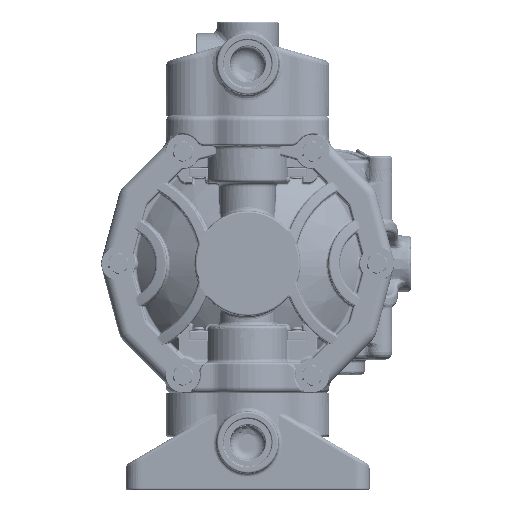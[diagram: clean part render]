
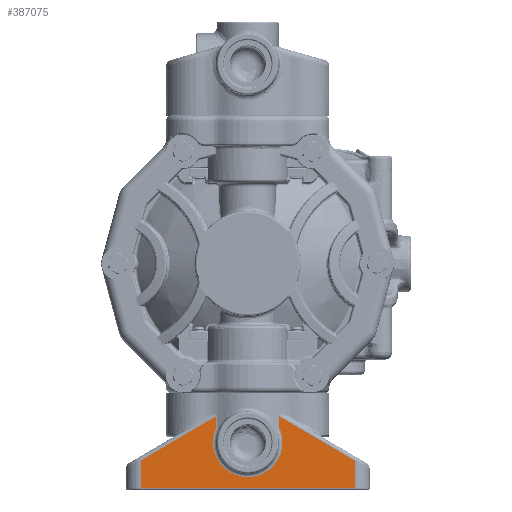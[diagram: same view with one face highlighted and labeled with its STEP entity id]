
A CAD part, top view. The second image highlights one B-rep face of the part: STEP entity #387075.
In plain terms, the highlighted planar face has unit normal (0, 0, 1).
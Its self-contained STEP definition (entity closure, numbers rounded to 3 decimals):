
#4421 = CARTESIAN_POINT ( 'NONE',  ( 57.001, -105.119, 104.656 ) ) ;
#9467 = VERTEX_POINT ( 'NONE', #373981 ) ;
#24901 = EDGE_CURVE ( 'NONE', #220158, #9467, #119329, .T. ) ;
#31273 = VECTOR ( 'NONE', #421659, 1000. ) ;
#43518 = VERTEX_POINT ( 'NONE', #319268 ) ;
#49198 = CARTESIAN_POINT ( 'NONE',  ( -16.499, -115.5, 104.656 ) ) ;
#64103 = VERTEX_POINT ( 'NONE', #380675 ) ;
#71077 = CIRCLE ( 'NONE', #326365, 18.5 ) ;
#78902 = ORIENTED_EDGE ( 'NONE', *, *, #280539, .T. ) ;
#79575 = VECTOR ( 'NONE', #159988, 1000. ) ;
#86680 = ORIENTED_EDGE ( 'NONE', *, *, #155892, .T. ) ;
#88591 = CARTESIAN_POINT ( 'NONE',  ( 0.001, -95.5, 104.656 ) ) ;
#94102 = AXIS2_PLACEMENT_3D ( 'NONE', #116966, #359584, #151879 ) ;
#95052 = EDGE_CURVE ( 'NONE', #425982, #43518, #322094, .T. ) ;
#99901 = CARTESIAN_POINT ( 'NONE',  ( 18.501, -95.5, 104.656 ) ) ;
#101698 = CARTESIAN_POINT ( 'NONE',  ( 57.001, -120., 104.656 ) ) ;
#106298 = EDGE_CURVE ( 'NONE', #330234, #404605, #252815, .T. ) ;
#112259 = VECTOR ( 'NONE', #190217, 1000. ) ;
#112508 = VECTOR ( 'NONE', #439025, 1000. ) ;
#116966 = CARTESIAN_POINT ( 'NONE',  ( 0.001, -95.5, 104.656 ) ) ;
#117716 = CARTESIAN_POINT ( 'NONE',  ( -56.999, -120., 104.656 ) ) ;
#119329 = LINE ( 'NONE', #101698, #282038 ) ;
#123543 = DIRECTION ( 'NONE',  ( 1., 0., 0. ) ) ;
#136644 = DIRECTION ( 'NONE',  ( 1., 0., 0. ) ) ;
#145905 = CARTESIAN_POINT ( 'NONE',  ( 57.001, -115.5, 104.656 ) ) ;
#148912 = ORIENTED_EDGE ( 'NONE', *, *, #24901, .T. ) ;
#151879 = DIRECTION ( 'NONE',  ( 1., 0., 0. ) ) ;
#152526 = ORIENTED_EDGE ( 'NONE', *, *, #427793, .T. ) ;
#154935 = ORIENTED_EDGE ( 'NONE', *, *, #166100, .T. ) ;
#155377 = CARTESIAN_POINT ( 'NONE',  ( 15.488, -80.724, 104.656 ) ) ;
#155892 = EDGE_CURVE ( 'NONE', #370818, #64103, #356349, .T. ) ;
#159988 = DIRECTION ( 'NONE',  ( 0., 1., 0. ) ) ;
#166100 = EDGE_CURVE ( 'NONE', #43518, #370818, #278143, .T. ) ;
#183077 = LINE ( 'NONE', #196619, #112508 ) ;
#189696 = DIRECTION ( 'NONE',  ( 0., 0., -1. ) ) ;
#190217 = DIRECTION ( 'NONE',  ( -0.862, 0.507, 0. ) ) ;
#190324 = EDGE_CURVE ( 'NONE', #9467, #241601, #442758, .T. ) ;
#196619 = CARTESIAN_POINT ( 'NONE',  ( -31.429, -90.093, 104.656 ) ) ;
#215619 = LINE ( 'NONE', #386877, #31273 ) ;
#220158 = VERTEX_POINT ( 'NONE', #117716 ) ;
#223575 = DIRECTION ( 'NONE',  ( 1., 0., 0. ) ) ;
#228742 = ORIENTED_EDGE ( 'NONE', *, *, #106298, .T. ) ;
#236657 = EDGE_LOOP ( 'NONE', ( #78902, #148912, #388649, #152526, #228742, #317399, #432219, #154935, #86680, #258996 ) ) ;
#240530 = FACE_OUTER_BOUND ( 'NONE', #236657, .T. ) ;
#241601 = VERTEX_POINT ( 'NONE', #4421 ) ;
#252341 = AXIS2_PLACEMENT_3D ( 'NONE', #88591, #331272, #123543 ) ;
#252815 = LINE ( 'NONE', #279772, #334085 ) ;
#258996 = ORIENTED_EDGE ( 'NONE', *, *, #359136, .T. ) ;
#278143 = CIRCLE ( 'NONE', #252341, 18.5 ) ;
#279772 = CARTESIAN_POINT ( 'NONE',  ( 16.869, -115.5, 104.656 ) ) ;
#280539 = EDGE_CURVE ( 'NONE', #341529, #220158, #215619, .T. ) ;
#282038 = VECTOR ( 'NONE', #136644, 1000. ) ;
#288942 = CARTESIAN_POINT ( 'NONE',  ( -16.867, -87.902, 104.656 ) ) ;
#297978 = CARTESIAN_POINT ( 'NONE',  ( -16.867, -115.5, 104.656 ) ) ;
#314903 = CARTESIAN_POINT ( 'NONE',  ( 16.869, -81.536, 104.656 ) ) ;
#317399 = ORIENTED_EDGE ( 'NONE', *, *, #337619, .T. ) ;
#319220 = CARTESIAN_POINT ( 'NONE',  ( -56.999, -105.119, 104.656 ) ) ;
#319268 = CARTESIAN_POINT ( 'NONE',  ( -18.499, -95.5, 104.656 ) ) ;
#322094 = CIRCLE ( 'NONE', #94102, 18.5 ) ;
#326365 = AXIS2_PLACEMENT_3D ( 'NONE', #397277, #189696, #432075 ) ;
#330234 = VERTEX_POINT ( 'NONE', #314903 ) ;
#331272 = DIRECTION ( 'NONE',  ( 0., 0., -1. ) ) ;
#334085 = VECTOR ( 'NONE', #350990, 1000. ) ;
#337619 = EDGE_CURVE ( 'NONE', #404605, #425982, #71077, .T. ) ;
#341529 = VERTEX_POINT ( 'NONE', #319220 ) ;
#350685 = VECTOR ( 'NONE', #388323, 1000. ) ;
#350990 = DIRECTION ( 'NONE',  ( 0., -1., 0. ) ) ;
#356297 = CARTESIAN_POINT ( 'NONE',  ( 16.869, -87.902, 104.656 ) ) ;
#356349 = LINE ( 'NONE', #297978, #79575 ) ;
#359136 = EDGE_CURVE ( 'NONE', #64103, #341529, #183077, .T. ) ;
#359584 = DIRECTION ( 'NONE',  ( 0., 0., -1. ) ) ;
#370818 = VERTEX_POINT ( 'NONE', #288942 ) ;
#373981 = CARTESIAN_POINT ( 'NONE',  ( 57.001, -120., 104.656 ) ) ;
#380675 = CARTESIAN_POINT ( 'NONE',  ( -16.867, -81.536, 104.656 ) ) ;
#386877 = CARTESIAN_POINT ( 'NONE',  ( -56.999, -115.5, 104.656 ) ) ;
#387075 = ADVANCED_FACE ( 'NONE', ( #240530 ), #396262, .F. ) ;
#388323 = DIRECTION ( 'NONE',  ( 0., 1., 0. ) ) ;
#388649 = ORIENTED_EDGE ( 'NONE', *, *, #190324, .T. ) ;
#388953 = LINE ( 'NONE', #155377, #112259 ) ;
#396262 = PLANE ( 'NONE',  #443573 ) ;
#397277 = CARTESIAN_POINT ( 'NONE',  ( 0.001, -95.5, 104.656 ) ) ;
#404605 = VERTEX_POINT ( 'NONE', #356297 ) ;
#421659 = DIRECTION ( 'NONE',  ( 0., -1., 0. ) ) ;
#425982 = VERTEX_POINT ( 'NONE', #99901 ) ;
#427793 = EDGE_CURVE ( 'NONE', #241601, #330234, #388953, .T. ) ;
#431047 = DIRECTION ( 'NONE',  ( 0., 0., -1. ) ) ;
#432075 = DIRECTION ( 'NONE',  ( 1., 0., 0. ) ) ;
#432219 = ORIENTED_EDGE ( 'NONE', *, *, #95052, .T. ) ;
#439025 = DIRECTION ( 'NONE',  ( -0.862, -0.507, 0. ) ) ;
#442758 = LINE ( 'NONE', #145905, #350685 ) ;
#443573 = AXIS2_PLACEMENT_3D ( 'NONE', #49198, #431047, #223575 ) ;
